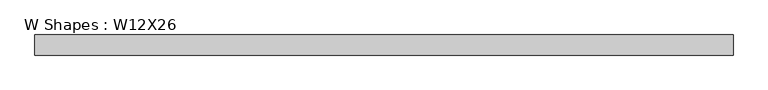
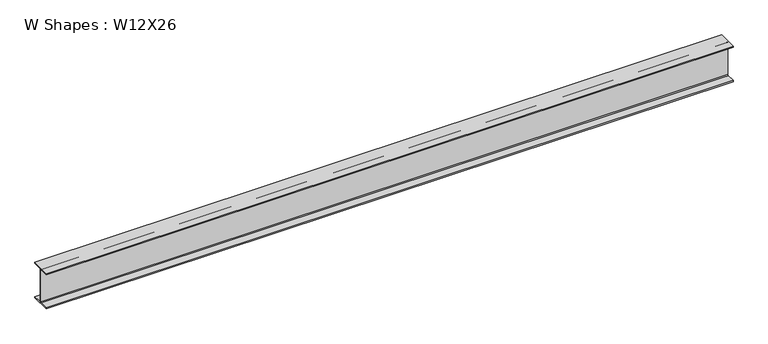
"""IFC4 building model written with IfcOpenShell, lengths in millimetres: beam geometry, W Shapes : W12X26."""

from ifc_helpers import new_model, si_unit, point, frame, frame_2d, origin, place, context, project, spatial, polyline, circle_curve, trimmed, segment, composite_curve, outline, extrude, source, transform, mapped, element, save


def w_shapes_w12x26_268029d0(model_context):
    return source(origin(), model_context, "Body", "SweptSolid", [
        extrude(outline(composite_curve([segment(polyline([(82.423, -145.288), (82.423, -154.94), (-82.423, -154.94), (-82.423, -145.288), (-10.541, -145.288)]), True, "CONTINUOUS"), segment(trimmed(circle_curve(frame_2d((-10.541, -137.668)), 7.62), [point((-10.541, -145.288))], [point((-2.921, -137.668))], True, "CARTESIAN"), True, "CONTINUOUS"), segment(polyline([(-2.921, -137.668), (-2.921, 137.668)]), True, "CONTINUOUS"), segment(trimmed(circle_curve(frame_2d((-10.541, 137.668)), 7.62), [point((-2.921, 137.668))], [point((-10.541, 145.288))], True, "CARTESIAN"), True, "CONTINUOUS"), segment(polyline([(-10.541, 145.288), (-82.423, 145.288), (-82.423, 154.94), (82.423, 154.94), (82.423, 145.288), (10.541, 145.288)]), True, "CONTINUOUS"), segment(trimmed(circle_curve(frame_2d((10.541, 137.668)), 7.62), [point((10.541, 145.288))], [point((2.921, 137.668))], True, "CARTESIAN"), True, "CONTINUOUS"), segment(polyline([(2.921, 137.668), (2.921, -137.668)]), True, "CONTINUOUS"), segment(trimmed(circle_curve(frame_2d((10.541, -137.668)), 7.62), [point((2.921, -137.668))], [point((10.541, -145.288))], True, "CARTESIAN"), True, "CONTINUOUS"), segment(polyline([(10.541, -145.288), (82.423, -145.288)]), True, "CONTINUOUS")], self_intersect=False)), frame((-2867.279, 0.0, 0.0), z_axis=(1.0, 0.0, 0.0), x_axis=(0.0, 1.0, 0.0)), (0.0, 0.0, 1.0), 5705.729),
    ])


if __name__ == "__main__":
    model = new_model("IFC4")
    model_context = context("Model", 3, world=origin())
    ifc_project = project(units=[si_unit("LENGTHUNIT", "METRE", prefix="MILLI")], contexts=[model_context])
    site = spatial("IfcSite", under=ifc_project)
    building = spatial("IfcBuilding", under=site)
    placement = place(None, origin())
    w_shapes_w12x26_shape = w_shapes_w12x26_268029d0(model_context)
    element("IfcBeam", 1, ObjectType="W Shapes : W12X26", at=placement, inside=building, context=model_context, shape_type="MappedRepresentation", body=[
        mapped(w_shapes_w12x26_shape, transform((0.0, 0.0, 0.0), x_axis=(1.0, 0.0, 0.0), y_axis=(0.0, 1.0, 0.0), z_axis=(0.0, 0.0, 1.0))),
    ])
    save(model, "model.ifc")
